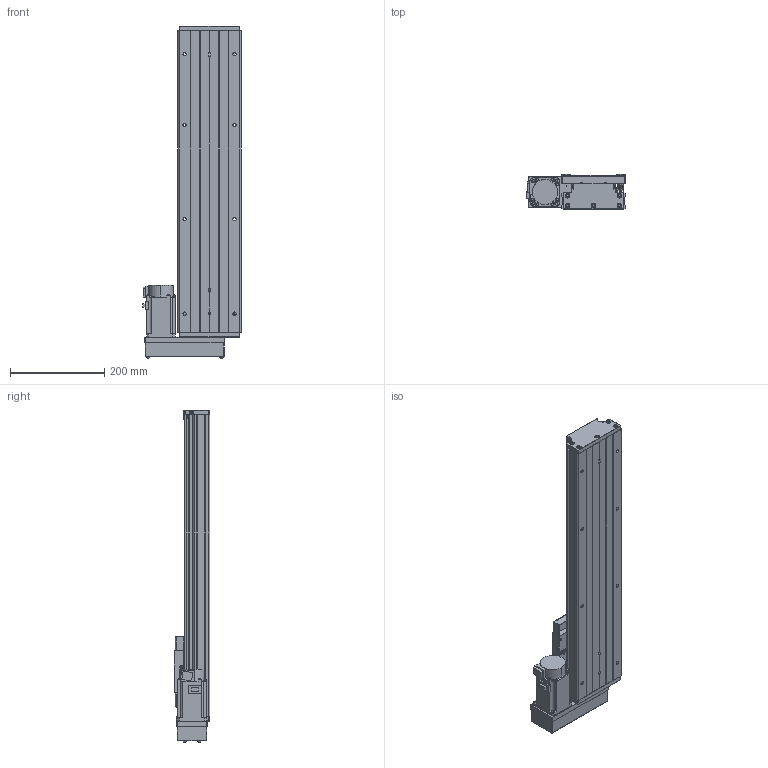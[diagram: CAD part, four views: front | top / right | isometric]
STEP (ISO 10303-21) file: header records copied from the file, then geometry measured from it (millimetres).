
FILE_DESCRIPTION (( 'STEP AP203' ), '1' );
FILE_NAME ('CTH130-450-BL-M40-C4.step', '2023-06-30T02:38:20', ( '微软用户' ), ( '微软中国' ), 'SwSTEP 2.0', 'SolidWorks 2020', '' );
FILE_SCHEMA (( 'CONFIG_CONTROL_DESIGN' ));
Length unit declared in the file: millimetre
Products named in the file (20): GBT70.1 M5℅16; GBT 70.2-M3¡Á5_M3¡Á6; GTH14-001_450; CTHA60-017; す晦芛蹟隊 M3℅5; CTH130-002_GTH14-002; EE_SX911P_R; HG-KN43J-S100; GB T308.1-2013-6.35; CTHA60-016; GBT 70.2-M4¡Á35_M4¡Á35; GTH14-004; GBT 70.1-M3℅5; GTH14-015-2_CTHA86-015-2; GTH14-005; GBT77-2000 M3×3; GTH14-033; GB1155-6X6; CTH130-031; CTH130-450-BL-M40-C4
Assembly tree (60 placements, depth 2):
  CTH130-450-BL-M40-C4
    GTH14-001_450
    CTH130-002_GTH14-002
    GB T308.1-2013-6.35  x2
    GTH14-004
    GTH14-005
    GB1155-6X6  x2
    GBT70.1 M5℅16  x10
    CTHA60-017  x3
    EE_SX911P_R  x3
    CTHA60-016  x2
    GBT 70.1-M3℅5  x6
    GBT77-2000 M3×3  x6
    CTH130-031
    GBT 70.2-M3¡Á5_M3¡Á6  x8
    す晦芛蹟隊 M3℅5  x6
    HG-KN43J-S100
    GBT 70.2-M4¡Á35_M4¡Á35  x4
    GTH14-015-2_CTHA86-015-2
    GTH14-033
Bounding box: 209.3 x 76 x 704.2 mm (x, y, z)
Volume: 3909651.2 mm3; surface area: 692859.6 mm2
Topology: 63 solids, 63 shells, 2425 faces, 5773 edges, 3569 vertices
Faces by surface type: plane 1308, cylinder 638, cone 299, torus 124, sphere 36, bspline 20
Entity records: 43616 total; most frequent: CARTESIAN_POINT 9797, DIRECTION 6342, ORIENTED_EDGE 6252, EDGE_CURVE 3126, AXIS2_PLACEMENT_3D 2158, LINE 2026, VECTOR 2026, VERTEX_POINT 1979
